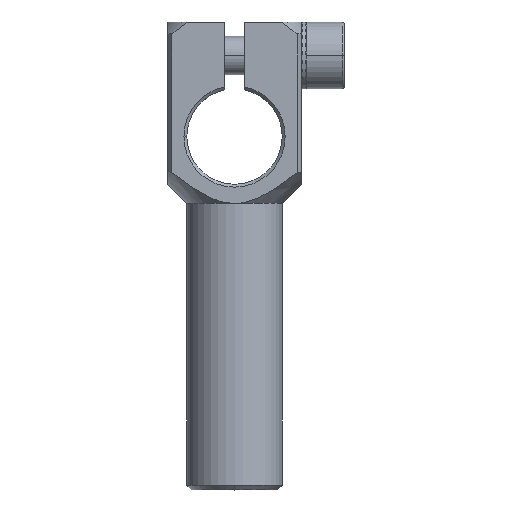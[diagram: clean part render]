
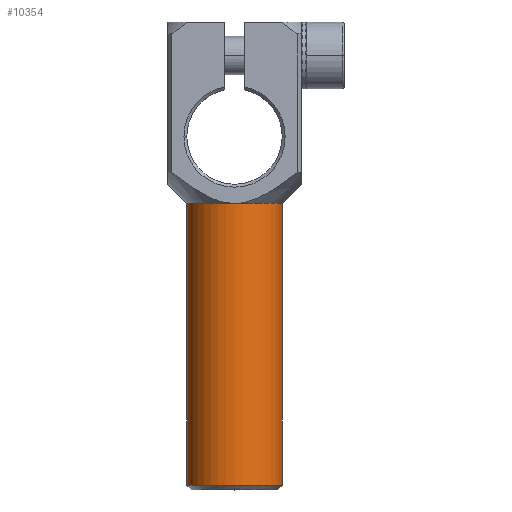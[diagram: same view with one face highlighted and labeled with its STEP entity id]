
A CAD part, top view. The second image highlights one B-rep face of the part: STEP entity #10354.
In plain terms, the highlighted cylindrical face has radius 5 mm (diameter 10 mm), a partial arc.
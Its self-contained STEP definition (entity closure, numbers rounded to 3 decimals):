
#41 = DIRECTION ( 'NONE',  ( 0., 0., 1. ) ) ;
#549 = CARTESIAN_POINT ( 'NONE',  ( 14.293, -11.337, 5. ) ) ;
#574 = DIRECTION ( 'NONE',  ( 0., 0., -1. ) ) ;
#711 = EDGE_CURVE ( 'NONE', #10057, #9106, #8859, .T. ) ;
#1315 = VECTOR ( 'NONE', #5850, 1000. ) ;
#1319 = ORIENTED_EDGE ( 'NONE', *, *, #8857, .F. ) ;
#1322 = EDGE_CURVE ( 'NONE', #7721, #3907, #12225, .T. ) ;
#1727 = DIRECTION ( 'NONE',  ( 0., 0., -1. ) ) ;
#1979 = CARTESIAN_POINT ( 'NONE',  ( 19.293, 18.163, 0. ) ) ;
#2098 = EDGE_LOOP ( 'NONE', ( #6106, #12044, #4785, #1319, #5477, #8663 ) ) ;
#2158 = LINE ( 'NONE', #1979, #1315 ) ;
#2288 = CARTESIAN_POINT ( 'NONE',  ( 14.293, 18.163, 5. ) ) ;
#2530 = CARTESIAN_POINT ( 'NONE',  ( 19.293, -11.337, 0. ) ) ;
#2547 = CARTESIAN_POINT ( 'NONE',  ( 9.293, -11.337, 0. ) ) ;
#2754 = DIRECTION ( 'NONE',  ( 0., -1., 0. ) ) ;
#2884 = CARTESIAN_POINT ( 'NONE',  ( 9.293, 18.163, 0. ) ) ;
#2969 = AXIS2_PLACEMENT_3D ( 'NONE', #9382, #8453, #1727 ) ;
#3147 = VECTOR ( 'NONE', #3601, 1000. ) ;
#3378 = AXIS2_PLACEMENT_3D ( 'NONE', #6547, #2754, #6820 ) ;
#3453 = DIRECTION ( 'NONE',  ( 0., -1., 0. ) ) ;
#3601 = DIRECTION ( 'NONE',  ( 0., -1., 0. ) ) ;
#3833 = AXIS2_PLACEMENT_3D ( 'NONE', #7851, #12437, #4937 ) ;
#3907 = VERTEX_POINT ( 'NONE', #2547 ) ;
#3981 = CARTESIAN_POINT ( 'NONE',  ( 14.293, 18.163, 0. ) ) ;
#3983 = CYLINDRICAL_SURFACE ( 'NONE', #3833, 5. ) ;
#4056 = EDGE_CURVE ( 'NONE', #10057, #5872, #2158, .T. ) ;
#4444 = EDGE_CURVE ( 'NONE', #9106, #7721, #10237, .T. ) ;
#4785 = ORIENTED_EDGE ( 'NONE', *, *, #5505, .F. ) ;
#4937 = DIRECTION ( 'NONE',  ( 1., 0., 0. ) ) ;
#5477 = ORIENTED_EDGE ( 'NONE', *, *, #4056, .F. ) ;
#5505 = EDGE_CURVE ( 'NONE', #5890, #3907, #5615, .T. ) ;
#5615 = CIRCLE ( 'NONE', #2969, 5. ) ;
#5850 = DIRECTION ( 'NONE',  ( 0., -1., 0. ) ) ;
#5872 = VERTEX_POINT ( 'NONE', #2530 ) ;
#5890 = VERTEX_POINT ( 'NONE', #549 ) ;
#6106 = ORIENTED_EDGE ( 'NONE', *, *, #4444, .T. ) ;
#6533 = AXIS2_PLACEMENT_3D ( 'NONE', #9267, #3453, #574 ) ;
#6547 = CARTESIAN_POINT ( 'NONE',  ( 14.293, 18.163, 0. ) ) ;
#6820 = DIRECTION ( 'NONE',  ( 0., 0., 1. ) ) ;
#7258 = CARTESIAN_POINT ( 'NONE',  ( 19.293, 18.163, 0. ) ) ;
#7721 = VERTEX_POINT ( 'NONE', #2884 ) ;
#7851 = CARTESIAN_POINT ( 'NONE',  ( 14.293, 18.163, 0. ) ) ;
#8453 = DIRECTION ( 'NONE',  ( 0., -1., 0. ) ) ;
#8663 = ORIENTED_EDGE ( 'NONE', *, *, #711, .T. ) ;
#8857 = EDGE_CURVE ( 'NONE', #5872, #5890, #11538, .T. ) ;
#8859 = CIRCLE ( 'NONE', #10052, 5. ) ;
#9106 = VERTEX_POINT ( 'NONE', #2288 ) ;
#9267 = CARTESIAN_POINT ( 'NONE',  ( 14.293, -11.337, 0. ) ) ;
#9329 = CARTESIAN_POINT ( 'NONE',  ( 9.293, 18.163, 0. ) ) ;
#9382 = CARTESIAN_POINT ( 'NONE',  ( 14.293, -11.337, 0. ) ) ;
#10052 = AXIS2_PLACEMENT_3D ( 'NONE', #3981, #11780, #41 ) ;
#10057 = VERTEX_POINT ( 'NONE', #7258 ) ;
#10237 = CIRCLE ( 'NONE', #3378, 5. ) ;
#10354 = ADVANCED_FACE ( 'NONE', ( #11416 ), #3983, .T. ) ;
#11416 = FACE_OUTER_BOUND ( 'NONE', #2098, .T. ) ;
#11538 = CIRCLE ( 'NONE', #6533, 5. ) ;
#11780 = DIRECTION ( 'NONE',  ( 0., -1., 0. ) ) ;
#12044 = ORIENTED_EDGE ( 'NONE', *, *, #1322, .T. ) ;
#12225 = LINE ( 'NONE', #9329, #3147 ) ;
#12437 = DIRECTION ( 'NONE',  ( 0., -1., 0. ) ) ;
